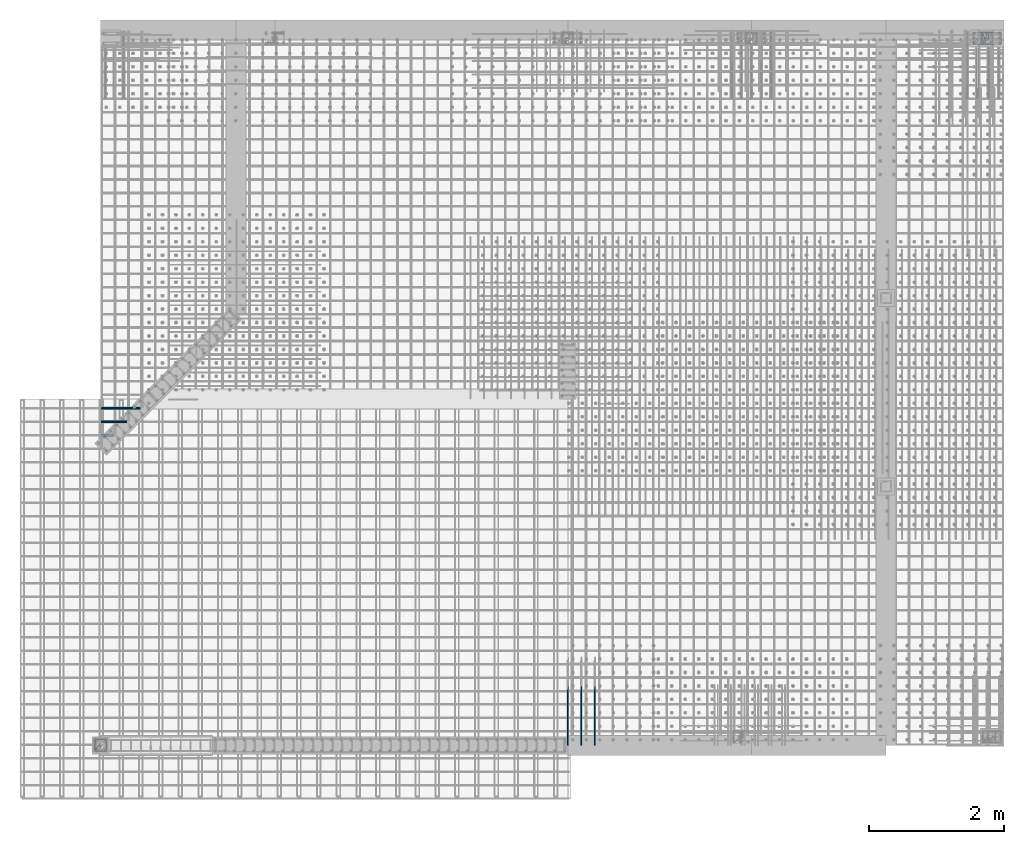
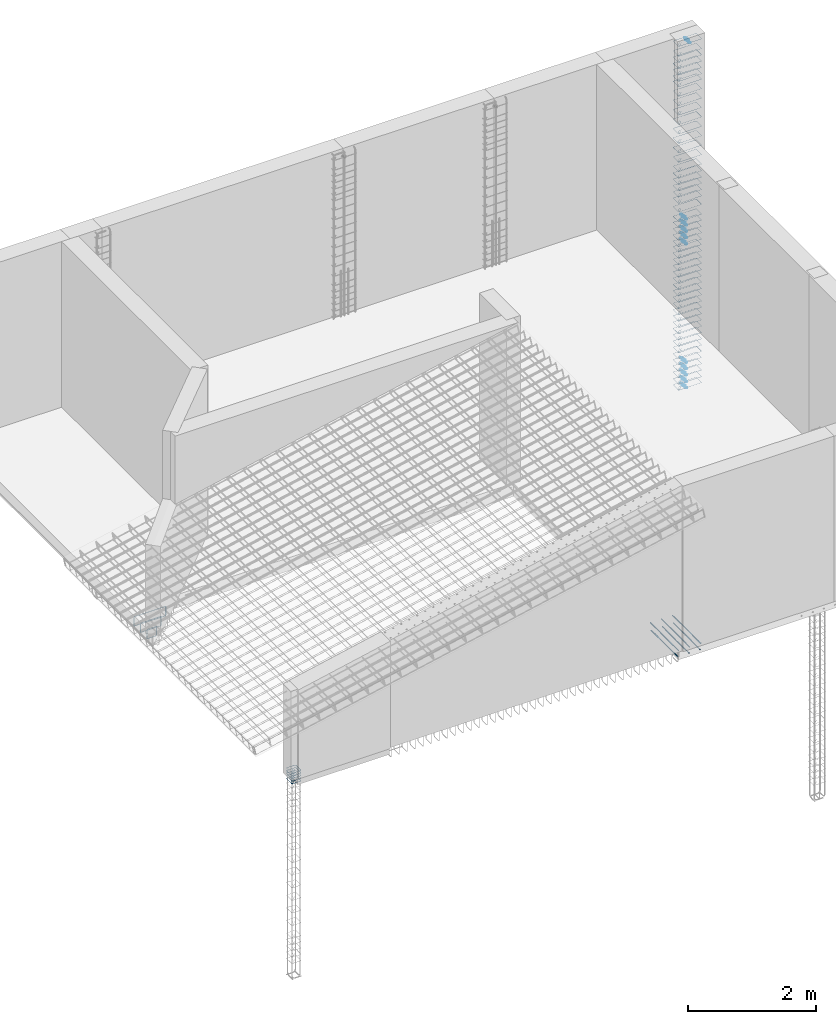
# One storey, part 15 of 17: 8 reinforcing bars.
"""IFC4 building model written with IfcOpenShell, lengths in metres."""

from ifc_helpers import new_model, entity, si_unit, frame, origin_with_axes, place, context, project, spatial, source, transform, mapped, element, save


model = new_model("IFC4")

# Units and contexts
model_context = context("Model", 3, precision=1e-05, world=origin_with_axes())
ifc_project = project(units=[si_unit("LENGTHUNIT", "METRE"), si_unit("AREAUNIT", "SQUARE_METRE"), si_unit("VOLUMEUNIT", "CUBIC_METRE"), si_unit("MASSUNIT", "GRAM", prefix="KILO"), si_unit("TIMEUNIT", "SECOND"), si_unit("PLANEANGLEUNIT", "RADIAN"), si_unit("SOLIDANGLEUNIT", "STERADIAN"), si_unit("THERMODYNAMICTEMPERATUREUNIT", "DEGREE_CELSIUS")], contexts=[model_context])

# Site, building, storey
placement_1 = place(None, origin_with_axes())
site = spatial("IfcSite", under=ifc_project, at=placement_1, Name="Italia", CompositionType="ELEMENT")
building = spatial("IfcBuilding", under=site, at=placement_1, Name="Abitazione", CompositionType="ELEMENT")
storey_placement = place(None, frame((0.0, 0.0, 3.569999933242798), z_axis=(0.0, 0.0, 1.0), x_axis=(1.0, 0.0, 0.0)))
storey = spatial("IfcBuildingStorey", under=building, at=storey_placement, Name="Storey 1", CompositionType="ELEMENT", Elevation=3.569999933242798)

# Reinforcing bars
shared_shape_1 = source(origin_with_axes(), model_context, "Body", "AdvancedSweptSolid", [
    entity("IfcSweptDiskSolid", entity("IfcIndexedPolyCurve", entity("IfcCartesianPointList3D", [[1.19671, 0.775711, 3.474], [1.12893, 0.707929, 3.47289], [1.12186, 0.705, 3.4728], [1.115, 0.705, 3.47272], [1.11117, 0.705761, 3.47268], [1.10793, 0.707929, 3.47263], [1.10576, 0.711173, 3.47259], [1.105, 0.715, 3.47254], [1.105, 0.865, 3.47081], [1.10576, 0.868827, 3.47076], [1.10793, 0.872071, 3.47072], [1.11117, 0.874239, 3.47067], [1.115, 0.875, 3.47063], [1.265, 0.875, 3.46889], [1.26883, 0.874239, 3.46885], [1.27207, 0.872071, 3.4688], [1.27424, 0.868827, 3.46876], [1.275, 0.865, 3.46871], [1.275, 0.715, 3.46698], [1.27424, 0.711173, 3.46693], [1.27207, 0.707929, 3.46689], [1.26883, 0.705761, 3.46684], [1.265, 0.705, 3.4668], [1.115, 0.705, 3.46506], [1.11117, 0.705761, 3.46502], [1.10793, 0.707929, 3.46497], [1.10576, 0.711173, 3.46493], [1.105, 0.715, 3.46488], [1.105, 0.721858, 3.4648], [1.10793, 0.728929, 3.46471], [1.17571, 0.796711, 3.46361]]), [entity("IfcLineIndex", [1, 2]), entity("IfcLineIndex", [2, 3]), entity("IfcLineIndex", [3, 4]), entity("IfcLineIndex", [4, 5]), entity("IfcLineIndex", [5, 6]), entity("IfcLineIndex", [6, 7]), entity("IfcLineIndex", [7, 8]), entity("IfcLineIndex", [8, 9]), entity("IfcLineIndex", [9, 10]), entity("IfcLineIndex", [10, 11]), entity("IfcLineIndex", [11, 12]), entity("IfcLineIndex", [12, 13]), entity("IfcLineIndex", [13, 14]), entity("IfcLineIndex", [14, 15]), entity("IfcLineIndex", [15, 16]), entity("IfcLineIndex", [16, 17]), entity("IfcLineIndex", [17, 18]), entity("IfcLineIndex", [18, 19]), entity("IfcLineIndex", [19, 20]), entity("IfcLineIndex", [20, 21]), entity("IfcLineIndex", [21, 22]), entity("IfcLineIndex", [22, 23]), entity("IfcLineIndex", [23, 24]), entity("IfcLineIndex", [24, 25]), entity("IfcLineIndex", [25, 26]), entity("IfcLineIndex", [26, 27]), entity("IfcLineIndex", [27, 28]), entity("IfcLineIndex", [28, 29]), entity("IfcLineIndex", [29, 30]), entity("IfcLineIndex", [30, 31])], False), 0.004),
])
placement_2 = place(placement_1, origin_with_axes())
reinforcing_bar_1_placement = place(placement_2, origin_with_axes())
element("IfcReinforcingBar", 1, at=reinforcing_bar_1_placement, inside=storey, BarLength=0.898837, CrossSectionArea=5.0265e-05, NominalDiameter=0.008, context=model_context, shape_type="MappedRepresentation", body=[
    mapped(shared_shape_1, transform((0.0, 0.0, 0.0), x_axis=(1.0, 0.0, 0.0), y_axis=(0.0, 1.0, 0.0), z_axis=(0.0, 0.0, 1.0), scale=1.0)),
    mapped(shared_shape_1, transform((0.0, 0.0, 0.0499997), x_axis=(1.0, 0.0, 0.0), y_axis=(0.0, 1.0, 0.0), z_axis=(0.0, 0.0, 1.0), scale=1.0)),
    mapped(shared_shape_1, transform((0.0, 0.0, 0.0999997), x_axis=(1.0, 0.0, 0.0), y_axis=(0.0, 1.0, 0.0), z_axis=(0.0, 0.0, 1.0), scale=1.0)),
    mapped(shared_shape_1, transform((0.0, 0.0, 0.15), x_axis=(1.0, 0.0, 0.0), y_axis=(0.0, 1.0, 0.0), z_axis=(0.0, 0.0, 1.0), scale=1.0)),
    mapped(shared_shape_1, transform((0.0, 0.0, 0.2), x_axis=(1.0, 0.0, 0.0), y_axis=(0.0, 1.0, 0.0), z_axis=(0.0, 0.0, 1.0), scale=1.0)),
])
shared_shape_2 = source(origin_with_axes(), model_context, "Body", "AdvancedSweptSolid", [
    entity("IfcSweptDiskSolid", entity("IfcIndexedPolyCurve", entity("IfcCartesianPointList3D", [[14.2412, 11.2817, 0.047], [14.1734, 11.2139, 0.0465129], [14.1664, 11.211, 0.046474], [14.161, 11.211, 0.0464468], [14.1572, 11.2118, 0.0464269], [14.1539, 11.2139, 0.0464071], [14.1518, 11.2172, 0.0463873], [14.151, 11.221, 0.0463675], [14.151, 11.369, 0.0456154], [14.1518, 11.3728, 0.0455956], [14.1539, 11.3761, 0.0455757], [14.1572, 11.3782, 0.0455559], [14.161, 11.379, 0.0455361], [14.559, 11.379, 0.0435137], [14.5628, 11.3782, 0.0434938], [14.5661, 11.3761, 0.043474], [14.5682, 11.3728, 0.0434542], [14.569, 11.369, 0.0434343], [14.569, 11.221, 0.0426823], [14.5682, 11.2172, 0.0426625], [14.5661, 11.2139, 0.0426426], [14.5628, 11.2118, 0.0426228], [14.559, 11.211, 0.042603], [14.161, 11.211, 0.0405805], [14.1572, 11.2118, 0.0405607], [14.1539, 11.2139, 0.0405409], [14.1518, 11.2172, 0.0405211], [14.151, 11.221, 0.0405012], [14.151, 11.2264, 0.040474], [14.1539, 11.2334, 0.0404351], [14.2217, 11.3012, 0.039948]]), [entity("IfcLineIndex", [1, 2]), entity("IfcLineIndex", [2, 3]), entity("IfcLineIndex", [3, 4]), entity("IfcLineIndex", [4, 5]), entity("IfcLineIndex", [5, 6]), entity("IfcLineIndex", [6, 7]), entity("IfcLineIndex", [7, 8]), entity("IfcLineIndex", [8, 9]), entity("IfcLineIndex", [9, 10]), entity("IfcLineIndex", [10, 11]), entity("IfcLineIndex", [11, 12]), entity("IfcLineIndex", [12, 13]), entity("IfcLineIndex", [13, 14]), entity("IfcLineIndex", [14, 15]), entity("IfcLineIndex", [15, 16]), entity("IfcLineIndex", [16, 17]), entity("IfcLineIndex", [17, 18]), entity("IfcLineIndex", [18, 19]), entity("IfcLineIndex", [19, 20]), entity("IfcLineIndex", [20, 21]), entity("IfcLineIndex", [21, 22]), entity("IfcLineIndex", [22, 23]), entity("IfcLineIndex", [23, 24]), entity("IfcLineIndex", [24, 25]), entity("IfcLineIndex", [25, 26]), entity("IfcLineIndex", [26, 27]), entity("IfcLineIndex", [27, 28]), entity("IfcLineIndex", [28, 29]), entity("IfcLineIndex", [29, 30]), entity("IfcLineIndex", [30, 31])], False), 0.003),
])
reinforcing_bar_2_placement = place(placement_2, origin_with_axes())
element("IfcReinforcingBar", 2, at=reinforcing_bar_2_placement, inside=storey, BarLength=1.38779, CrossSectionArea=2.8274e-05, NominalDiameter=0.006, context=model_context, shape_type="MappedRepresentation", body=[
    mapped(shared_shape_2, transform((0.0, 0.0, 3.10002), x_axis=(1.0, 0.0, 0.0), y_axis=(0.0, 1.0, 0.0), z_axis=(0.0, 0.0, 1.0), scale=1.0)),
    mapped(shared_shape_2, transform((0.0, 0.0, 2.98002), x_axis=(1.0, 0.0, 0.0), y_axis=(0.0, 1.0, 0.0), z_axis=(0.0, 0.0, 1.0), scale=1.0)),
    mapped(shared_shape_2, transform((0.0, 0.0, 4.04389), x_axis=(1.0, 0.0, 5.30579e-05), y_axis=(0.0, 1.0, -5.68494e-05), z_axis=(-5.30578e-05, 5.68494e-05, 1.0), scale=1.0)),
    mapped(shared_shape_2, transform((0.0, 0.0, 4.35089), x_axis=(1.0, 0.0, 5.30579e-05), y_axis=(0.0, 1.0, -5.68494e-05), z_axis=(-5.30578e-05, 5.68494e-05, 1.0), scale=1.0)),
    mapped(shared_shape_2, transform((0.0, 0.0, 4.17089), x_axis=(1.0, 0.0, 5.30579e-05), y_axis=(0.0, 1.0, -5.68494e-05), z_axis=(-5.30578e-05, 5.68494e-05, 1.0), scale=1.0)),
    mapped(shared_shape_2, transform((0.0, 0.0, 4.53089), x_axis=(1.0, 0.0, 5.30579e-05), y_axis=(0.0, 1.0, -5.68494e-05), z_axis=(-5.30578e-05, 5.68494e-05, 1.0), scale=1.0)),
    mapped(shared_shape_2, transform((0.0, 0.0, 3.92402), x_axis=(1.0, 0.0, 0.0), y_axis=(0.0, 1.0, 0.0), z_axis=(0.0, 0.0, 1.0), scale=1.0)),
    mapped(shared_shape_2, transform((0.0, 0.0, 3.80402), x_axis=(1.0, 0.0, 0.0), y_axis=(0.0, 1.0, 0.0), z_axis=(0.0, 0.0, 1.0), scale=1.0)),
    mapped(shared_shape_2, transform((0.0, 0.0, 3.21402), x_axis=(1.0, 0.0, 0.0), y_axis=(0.0, 1.0, 0.0), z_axis=(0.0, 0.0, 1.0), scale=1.0)),
    mapped(shared_shape_2, transform((0.0, 0.0, 3.56402), x_axis=(1.0, 0.0, 0.0), y_axis=(0.0, 1.0, 0.0), z_axis=(0.0, 0.0, 1.0), scale=1.0)),
    mapped(shared_shape_2, transform((0.0, 0.0, 3.40102), x_axis=(1.0, 0.0, 0.0), y_axis=(0.0, 1.0, 0.0), z_axis=(0.0, 0.0, 1.0), scale=1.0)),
    mapped(shared_shape_2, transform((0.0, 0.0, 3.68402), x_axis=(1.0, 0.0, 0.0), y_axis=(0.0, 1.0, 0.0), z_axis=(0.0, 0.0, 1.0), scale=1.0)),
    mapped(shared_shape_2, transform((0.0, 0.0, 4.89088), x_axis=(1.0, 0.0, 5.30579e-05), y_axis=(0.0, 1.0, -5.68494e-05), z_axis=(-5.30578e-05, 5.68494e-05, 1.0), scale=1.0)),
    mapped(shared_shape_2, transform((0.0, 0.0, 4.71089), x_axis=(1.0, 0.0, 5.30579e-05), y_axis=(0.0, 1.0, -5.68494e-05), z_axis=(-5.30578e-05, 5.68494e-05, 1.0), scale=1.0)),
    mapped(shared_shape_2, transform((0.0, 0.0, 6.01389), x_axis=(1.0, 0.0, 5.30579e-05), y_axis=(0.0, 1.0, -5.68494e-05), z_axis=(-5.30578e-05, 5.68494e-05, 1.0), scale=1.0)),
    mapped(shared_shape_2, transform((0.0, 0.0, 6.25389), x_axis=(1.0, 0.0, 5.30579e-05), y_axis=(0.0, 1.0, -5.68494e-05), z_axis=(-5.30578e-05, 5.68494e-05, 1.0), scale=1.0)),
    mapped(shared_shape_2, transform((0.0, 0.0, 6.13389), x_axis=(1.0, 0.0, 5.30579e-05), y_axis=(0.0, 1.0, -5.68494e-05), z_axis=(-5.30578e-05, 5.68494e-05, 1.0), scale=1.0)),
    mapped(shared_shape_2, transform((0.0, 0.0, 6.37389), x_axis=(1.0, 0.0, 5.30579e-05), y_axis=(0.0, 1.0, -5.68494e-05), z_axis=(-5.30578e-05, 5.68494e-05, 1.0), scale=1.0)),
    mapped(shared_shape_2, transform((0.0, 0.0, 5.89389), x_axis=(1.0, 0.0, 5.30579e-05), y_axis=(0.0, 1.0, -5.68494e-05), z_axis=(-5.30578e-05, 5.68494e-05, 1.0), scale=1.0)),
    mapped(shared_shape_2, transform((0.0, 0.0, 5.79088), x_axis=(1.0, 0.0, 5.30579e-05), y_axis=(0.0, 1.0, -5.68494e-05), z_axis=(-5.30578e-05, 5.68494e-05, 1.0), scale=1.0)),
    mapped(shared_shape_2, transform((0.0, 0.0, 5.07089), x_axis=(1.0, 0.0, 5.30579e-05), y_axis=(0.0, 1.0, -5.68494e-05), z_axis=(-5.30578e-05, 5.68494e-05, 1.0), scale=1.0)),
    mapped(shared_shape_2, transform((0.0, 0.0, 5.43088), x_axis=(1.0, 0.0, 5.30579e-05), y_axis=(0.0, 1.0, -5.68494e-05), z_axis=(-5.30578e-05, 5.68494e-05, 1.0), scale=1.0)),
    mapped(shared_shape_2, transform((0.0, 0.0, 5.25089), x_axis=(1.0, 0.0, 5.30579e-05), y_axis=(0.0, 1.0, -5.68494e-05), z_axis=(-5.30578e-05, 5.68494e-05, 1.0), scale=1.0)),
    mapped(shared_shape_2, transform((0.0, 0.0, 5.61088), x_axis=(1.0, 0.0, 5.30579e-05), y_axis=(0.0, 1.0, -5.68494e-05), z_axis=(-5.30578e-05, 5.68494e-05, 1.0), scale=1.0)),
    mapped(shared_shape_2, transform((0.0, 0.0, 0.0), x_axis=(1.0, 0.0, 0.0), y_axis=(0.0, 1.0, 0.0), z_axis=(0.0, 0.0, 1.0), scale=1.0)),
    mapped(shared_shape_2, transform((0.0, 0.0, 6.56089), x_axis=(1.0, 0.0, 5.30579e-05), y_axis=(0.0, 1.0, -5.68494e-05), z_axis=(-5.30578e-05, 5.68494e-05, 1.0), scale=1.0)),
    mapped(shared_shape_2, transform((0.0, 0.0, 0.836016), x_axis=(1.0, 0.0, 0.0), y_axis=(0.0, 1.0, 0.0), z_axis=(0.0, 0.0, 1.0), scale=1.0)),
    mapped(shared_shape_2, transform((0.0, 0.0, 1.07594), x_axis=(1.0, 0.0, 2.17937e-05), y_axis=(0.0, 1.0, -2.20677e-05), z_axis=(-2.17937e-05, 2.20677e-05, 1.0), scale=1.0)),
    mapped(shared_shape_2, transform((0.0, 0.0, 0.955939), x_axis=(1.0, 0.0, 2.17937e-05), y_axis=(0.0, 1.0, -2.20677e-05), z_axis=(-2.17937e-05, 2.20677e-05, 1.0), scale=1.0)),
    mapped(shared_shape_2, transform((0.0, 0.0, 1.19594), x_axis=(1.0, 0.0, 2.17937e-05), y_axis=(0.0, 1.0, -2.20677e-05), z_axis=(-2.17937e-05, 2.20677e-05, 1.0), scale=1.0)),
    mapped(shared_shape_2, transform((0.0, 0.0, 0.716016), x_axis=(1.0, 0.0, 0.0), y_axis=(0.0, 1.0, 0.0), z_axis=(0.0, 0.0, 1.0), scale=1.0)),
    mapped(shared_shape_2, transform((0.0, 0.0, 0.596016), x_axis=(1.0, 0.0, 0.0), y_axis=(0.0, 1.0, 0.0), z_axis=(0.0, 0.0, 1.0), scale=1.0)),
    mapped(shared_shape_2, transform((0.0, 0.0, 0.113998), x_axis=(1.0, 0.0, 0.0), y_axis=(0.0, 1.0, 0.0), z_axis=(0.0, 0.0, 1.0), scale=1.0)),
    mapped(shared_shape_2, transform((0.0, 0.0, 0.359998), x_axis=(1.0, 0.0, 0.0), y_axis=(0.0, 1.0, 0.0), z_axis=(0.0, 0.0, 1.0), scale=1.0)),
    mapped(shared_shape_2, transform((0.0, 0.0, 0.239998), x_axis=(1.0, 0.0, 0.0), y_axis=(0.0, 1.0, 0.0), z_axis=(0.0, 0.0, 1.0), scale=1.0)),
    mapped(shared_shape_2, transform((0.0, 0.0, 0.479981), x_axis=(1.0, 0.0, 0.0), y_axis=(0.0, 1.0, 0.0), z_axis=(0.0, 0.0, 1.0), scale=1.0)),
    mapped(shared_shape_2, transform((0.0, 0.0, 1.43594), x_axis=(1.0, 0.0, 2.17937e-05), y_axis=(0.0, 1.0, -2.20677e-05), z_axis=(-2.17937e-05, 2.20677e-05, 1.0), scale=1.0)),
    mapped(shared_shape_2, transform((0.0, 0.0, 1.31594), x_axis=(1.0, 0.0, 2.17937e-05), y_axis=(0.0, 1.0, -2.20677e-05), z_axis=(-2.17937e-05, 2.20677e-05, 1.0), scale=1.0)),
    mapped(shared_shape_2, transform((0.0, 0.0, 2.27602), x_axis=(1.0, 0.0, 0.0), y_axis=(0.0, 1.0, 0.0), z_axis=(0.0, 0.0, 1.0), scale=1.0)),
    mapped(shared_shape_2, transform((0.0, 0.0, 2.51602), x_axis=(1.0, 0.0, 0.0), y_axis=(0.0, 1.0, 0.0), z_axis=(0.0, 0.0, 1.0), scale=1.0)),
    mapped(shared_shape_2, transform((0.0, 0.0, 2.39602), x_axis=(1.0, 0.0, 0.0), y_axis=(0.0, 1.0, 0.0), z_axis=(0.0, 0.0, 1.0), scale=1.0)),
    mapped(shared_shape_2, transform((0.0, 0.0, 2.63602), x_axis=(1.0, 0.0, 0.0), y_axis=(0.0, 1.0, 0.0), z_axis=(0.0, 0.0, 1.0), scale=1.0)),
    mapped(shared_shape_2, transform((0.0, 0.0, 2.15602), x_axis=(1.0, 0.0, 0.0), y_axis=(0.0, 1.0, 0.0), z_axis=(0.0, 0.0, 1.0), scale=1.0)),
    mapped(shared_shape_2, transform((0.0, 0.0, 2.03602), x_axis=(1.0, 0.0, 0.0), y_axis=(0.0, 1.0, 0.0), z_axis=(0.0, 0.0, 1.0), scale=1.0)),
    mapped(shared_shape_2, transform((0.0, 0.0, 1.55594), x_axis=(1.0, 0.0, 2.17937e-05), y_axis=(0.0, 1.0, -2.20677e-05), z_axis=(-2.17937e-05, 2.20677e-05, 1.0), scale=1.0)),
    mapped(shared_shape_2, transform((0.0, 0.0, 1.79594), x_axis=(1.0, 0.0, 2.17937e-05), y_axis=(0.0, 1.0, -2.20677e-05), z_axis=(-2.17937e-05, 2.20677e-05, 1.0), scale=1.0)),
    mapped(shared_shape_2, transform((0.0, 0.0, 1.67594), x_axis=(1.0, 0.0, 2.17937e-05), y_axis=(0.0, 1.0, -2.20677e-05), z_axis=(-2.17937e-05, 2.20677e-05, 1.0), scale=1.0)),
    mapped(shared_shape_2, transform((0.0, 0.0, 1.91594), x_axis=(1.0, 0.0, 2.17937e-05), y_axis=(0.0, 1.0, -2.20677e-05), z_axis=(-2.17937e-05, 2.20677e-05, 1.0), scale=1.0)),
    mapped(shared_shape_2, transform((0.0, 0.0, 2.86002), x_axis=(1.0, 0.0, 0.0), y_axis=(0.0, 1.0, 0.0), z_axis=(0.0, 0.0, 1.0), scale=1.0)),
    mapped(shared_shape_2, transform((0.0, 0.0, 2.74002), x_axis=(1.0, 0.0, 0.0), y_axis=(0.0, 1.0, 0.0), z_axis=(0.0, 0.0, 1.0), scale=1.0)),
])
shared_shape_3 = source(origin_with_axes(), model_context, "Body", "AdvancedSweptSolid", [
    entity("IfcSweptDiskSolid", entity("IfcIndexedPolyCurve", entity("IfcCartesianPointList3D", [[14.3236, 11.2844, 0.032], [14.306, 11.3727, 0.032], [14.3045, 11.3763, 0.032], [14.3017, 11.379, 0.032], [14.2981, 11.3805, 0.032], [14.2942, 11.3805, 0.032], [14.2883, 11.3793, 0.032], [14.2847, 11.3778, 0.032], [14.282, 11.3751, 0.032], [14.2805, 11.3715, 0.032], [14.2805, 11.3676, 0.032], [14.3095, 11.2224, 0.032], [14.3095, 11.2185, 0.032], [14.308, 11.2149, 0.032], [14.3053, 11.2122, 0.032], [14.3017, 11.2107, 0.032], [14.2958, 11.2095, 0.032], [14.2919, 11.2095, 0.032], [14.2883, 11.211, 0.032], [14.2855, 11.2137, 0.032], [14.284, 11.2173, 0.032], [14.2664, 11.3056, 0.032]]), [entity("IfcLineIndex", [1, 2]), entity("IfcLineIndex", [2, 3]), entity("IfcLineIndex", [3, 4]), entity("IfcLineIndex", [4, 5]), entity("IfcLineIndex", [5, 6]), entity("IfcLineIndex", [6, 7]), entity("IfcLineIndex", [7, 8]), entity("IfcLineIndex", [8, 9]), entity("IfcLineIndex", [9, 10]), entity("IfcLineIndex", [10, 11]), entity("IfcLineIndex", [11, 12]), entity("IfcLineIndex", [12, 13]), entity("IfcLineIndex", [13, 14]), entity("IfcLineIndex", [14, 15]), entity("IfcLineIndex", [15, 16]), entity("IfcLineIndex", [16, 17]), entity("IfcLineIndex", [17, 18]), entity("IfcLineIndex", [18, 19]), entity("IfcLineIndex", [19, 20]), entity("IfcLineIndex", [20, 21]), entity("IfcLineIndex", [21, 22])], False), 0.003),
])
reinforcing_bar_3_placement = place(placement_2, origin_with_axes())
element("IfcReinforcingBar", 3, at=reinforcing_bar_3_placement, inside=storey, BarLength=0.40243, CrossSectionArea=2.8274e-05, NominalDiameter=0.006, context=model_context, shape_type="MappedRepresentation", body=[
    mapped(shared_shape_3, transform((-0.459164, 0.697059, 6.567), x_axis=(0.998854, -0.047857, 0.0), y_axis=(0.047857, 0.998854, 0.0), z_axis=(0.0, 0.0, 1.0), scale=1.0)),
    mapped(shared_shape_3, transform((0.0, 0.0, 2.866), x_axis=(1.0, 0.0, 0.0), y_axis=(0.0, 1.0, 0.0), z_axis=(0.0, 0.0, 1.0), scale=1.0)),
    mapped(shared_shape_3, transform((0.0, 0.0, 2.986), x_axis=(1.0, 0.0, 0.0), y_axis=(0.0, 1.0, 0.0), z_axis=(0.0, 0.0, 1.0), scale=1.0)),
    mapped(shared_shape_3, transform((0.0, 0.0, 3.106), x_axis=(1.0, 0.0, 0.0), y_axis=(0.0, 1.0, 0.0), z_axis=(0.0, 0.0, 1.0), scale=1.0)),
    mapped(shared_shape_3, transform((0.0, 0.0, 3.22), x_axis=(1.0, 0.0, 0.0), y_axis=(0.0, 1.0, 0.0), z_axis=(0.0, 0.0, 1.0), scale=1.0)),
    mapped(shared_shape_3, transform((0.0, 0.0, 2.746), x_axis=(1.0, 0.0, 0.0), y_axis=(0.0, 1.0, 0.0), z_axis=(0.0, 0.0, 1.0), scale=1.0)),
    mapped(shared_shape_3, transform((0.0, 0.0, 0.12), x_axis=(1.0, 0.0, 0.0), y_axis=(0.0, 1.0, 0.0), z_axis=(0.0, 0.0, 1.0), scale=1.0)),
    mapped(shared_shape_3, transform((0.0, 0.0, 0.246), x_axis=(1.0, 0.0, 0.0), y_axis=(0.0, 1.0, 0.0), z_axis=(0.0, 0.0, 1.0), scale=1.0)),
    mapped(shared_shape_3, transform((0.0, 0.0, 0.366), x_axis=(1.0, 0.0, 0.0), y_axis=(0.0, 1.0, 0.0), z_axis=(0.0, 0.0, 1.0), scale=1.0)),
    mapped(shared_shape_3, transform((0.0, 0.0, 0.486), x_axis=(1.0, 0.0, 0.0), y_axis=(0.0, 1.0, 0.0), z_axis=(0.0, 0.0, 1.0), scale=1.0)),
    mapped(shared_shape_3, transform((0.0, 0.0, 0.0), x_axis=(1.0, 0.0, 0.0), y_axis=(0.0, 1.0, 0.0), z_axis=(0.0, 0.0, 1.0), scale=1.0)),
])
shared_shape_4 = source(origin_with_axes(), model_context, "Body", "AdvancedSweptSolid", [
    entity("IfcSweptDiskSolid", entity("IfcIndexedPolyCurve", entity("IfcCartesianPointList3D", [[1.202, 5.394, 3.374], [1.202, 5.394, 3.53], [1.20276, 5.394, 3.53383], [1.20493, 5.394, 3.53707], [1.20817, 5.394, 3.53924], [1.212, 5.394, 3.54], [1.36496, 5.394, 3.54], [1.36879, 5.394, 3.53924], [1.37203, 5.394, 3.53707], [1.3742, 5.394, 3.53383], [1.37496, 5.394, 3.53], [1.37496, 5.394, 3.374]]), [entity("IfcLineIndex", [1, 2]), entity("IfcLineIndex", [2, 3]), entity("IfcLineIndex", [3, 4]), entity("IfcLineIndex", [4, 5]), entity("IfcLineIndex", [5, 6]), entity("IfcLineIndex", [6, 7]), entity("IfcLineIndex", [7, 8]), entity("IfcLineIndex", [8, 9]), entity("IfcLineIndex", [9, 10]), entity("IfcLineIndex", [10, 11]), entity("IfcLineIndex", [11, 12])], False), 0.006),
])
reinforcing_bar_4_placement = place(placement_2, origin_with_axes())
element("IfcReinforcingBar", 4, at=reinforcing_bar_4_placement, inside=storey, BarLength=0.496173, CrossSectionArea=0.0001131, NominalDiameter=0.012, context=model_context, shape_type="MappedRepresentation", body=[
    mapped(shared_shape_4, transform((0.0, 10.8, 6.89), x_axis=(1.0, 0.0, 0.0), y_axis=(0.0, -1.0, 0.0), z_axis=(0.0, 0.0, -1.0), scale=1.0)),
    mapped(shared_shape_4, transform((0.0, 0.0, 0.0), x_axis=(1.0, 0.0, 0.0), y_axis=(0.0, 1.0, 0.0), z_axis=(0.0, 0.0, 1.0), scale=1.0)),
])
shared_shape_5 = source(origin_with_axes(), model_context, "Body", "AdvancedSweptSolid", [
    entity("IfcSweptDiskSolid", entity("IfcIndexedPolyCurve", entity("IfcCartesianPointList3D", [[1.202, 5.594, 3.374], [1.202, 5.594, 3.53], [1.20276, 5.594, 3.53383], [1.20493, 5.594, 3.53707], [1.20817, 5.594, 3.53924], [1.212, 5.594, 3.54], [1.56397, 5.594, 3.54], [1.5678, 5.594, 3.53924], [1.57104, 5.594, 3.53707], [1.57321, 5.594, 3.53383], [1.57397, 5.594, 3.53], [1.57397, 5.594, 3.374]]), [entity("IfcLineIndex", [1, 2]), entity("IfcLineIndex", [2, 3]), entity("IfcLineIndex", [3, 4]), entity("IfcLineIndex", [4, 5]), entity("IfcLineIndex", [5, 6]), entity("IfcLineIndex", [6, 7]), entity("IfcLineIndex", [7, 8]), entity("IfcLineIndex", [8, 9]), entity("IfcLineIndex", [9, 10]), entity("IfcLineIndex", [10, 11]), entity("IfcLineIndex", [11, 12])], False), 0.006),
])
reinforcing_bar_5_placement = place(placement_2, origin_with_axes())
element("IfcReinforcingBar", 5, at=reinforcing_bar_5_placement, inside=storey, BarLength=0.695183, CrossSectionArea=0.0001131, NominalDiameter=0.012, context=model_context, shape_type="MappedRepresentation", body=[
    mapped(shared_shape_5, transform((0.0, 11.2, 6.89), x_axis=(1.0, 0.0, 0.0), y_axis=(0.0, -1.0, 0.0), z_axis=(0.0, 0.0, -1.0), scale=1.0)),
    mapped(shared_shape_5, transform((0.0, 0.0, 0.0), x_axis=(1.0, 0.0, 0.0), y_axis=(0.0, 1.0, 0.0), z_axis=(0.0, 0.0, 1.0), scale=1.0)),
])
shared_shape_6 = source(origin_with_axes(), model_context, "Body", "AdvancedSweptSolid", [
    entity("IfcSweptDiskSolid", entity("IfcIndexedPolyCurve", entity("IfcCartesianPointList3D", [[1.202, 5.794, 3.374], [1.202, 5.794, 3.53], [1.20276, 5.794, 3.53383], [1.20493, 5.794, 3.53707], [1.20817, 5.794, 3.53924], [1.212, 5.794, 3.54], [1.76298, 5.794, 3.54], [1.7668, 5.794, 3.53924], [1.77005, 5.794, 3.53707], [1.77222, 5.794, 3.53383], [1.77298, 5.794, 3.53], [1.77298, 5.794, 3.374]]), [entity("IfcLineIndex", [1, 2]), entity("IfcLineIndex", [2, 3]), entity("IfcLineIndex", [3, 4]), entity("IfcLineIndex", [4, 5]), entity("IfcLineIndex", [5, 6]), entity("IfcLineIndex", [6, 7]), entity("IfcLineIndex", [7, 8]), entity("IfcLineIndex", [8, 9]), entity("IfcLineIndex", [9, 10]), entity("IfcLineIndex", [10, 11]), entity("IfcLineIndex", [11, 12])], False), 0.006),
])
reinforcing_bar_6_placement = place(placement_2, origin_with_axes())
element("IfcReinforcingBar", 6, at=reinforcing_bar_6_placement, inside=storey, BarLength=0.894192, CrossSectionArea=0.0001131, NominalDiameter=0.012, context=model_context, shape_type="MappedRepresentation", body=[
    mapped(shared_shape_6, transform((0.0, 11.6, 6.89), x_axis=(1.0, 0.0, 0.0), y_axis=(0.0, -1.0, 0.0), z_axis=(0.0, 0.0, -1.0), scale=1.0)),
    mapped(shared_shape_6, transform((0.0, 0.0, 0.0), x_axis=(1.0, 0.0, 0.0), y_axis=(0.0, 1.0, 0.0), z_axis=(0.0, 0.0, 1.0), scale=1.0)),
])
shared_shape_7 = source(origin_with_axes(), model_context, "Body", "AdvancedSweptSolid", [
    entity("IfcSweptDiskSolid", entity("IfcIndexedPolyCurve", entity("IfcCartesianPointList3D", [[8.136, 0.79, 3.5], [8.136, 1.66643, 3.5]]), [entity("IfcLineIndex", [1, 2])], False), 0.006),
])
reinforcing_bar_7_placement = place(placement_2, origin_with_axes())
element("IfcReinforcingBar", 7, at=reinforcing_bar_7_placement, inside=storey, BarLength=0.876429, CrossSectionArea=0.0001131, NominalDiameter=0.012, context=model_context, shape_type="MappedRepresentation", body=[
    mapped(shared_shape_7, transform((0.4, 0.0, 0.0), x_axis=(1.0, 0.0, 0.0), y_axis=(0.0, 1.0, 0.0), z_axis=(0.0, 0.0, 1.0), scale=1.0)),
    mapped(shared_shape_7, transform((0.2, 0.0, 0.0), x_axis=(1.0, 0.0, 0.0), y_axis=(0.0, 1.0, 0.0), z_axis=(0.0, 0.0, 1.0), scale=1.0)),
    mapped(shared_shape_7, transform((0.0, 0.0, 0.0), x_axis=(1.0, 0.0, 0.0), y_axis=(0.0, 1.0, 0.0), z_axis=(0.0, 0.0, 1.0), scale=1.0)),
])
shared_shape_8 = source(origin_with_axes(), model_context, "Body", "AdvancedSweptSolid", [
    entity("IfcSweptDiskSolid", entity("IfcIndexedPolyCurve", entity("IfcCartesianPointList3D", [[8.124, 0.79, 3.386], [8.124, 1.62061, 3.386]]), [entity("IfcLineIndex", [1, 2])], False), 0.006),
])
reinforcing_bar_8_placement = place(placement_2, origin_with_axes())
element("IfcReinforcingBar", 8, at=reinforcing_bar_8_placement, inside=storey, BarLength=0.830613, CrossSectionArea=0.0001131, NominalDiameter=0.012, context=model_context, shape_type="MappedRepresentation", body=[
    mapped(shared_shape_8, transform((0.4, 0.0, 0.0), x_axis=(1.0, 0.0, 0.0), y_axis=(0.0, 1.0, 0.0), z_axis=(0.0, 0.0, 1.0), scale=1.0)),
    mapped(shared_shape_8, transform((0.2, 0.0, 0.0), x_axis=(1.0, 0.0, 0.0), y_axis=(0.0, 1.0, 0.0), z_axis=(0.0, 0.0, 1.0), scale=1.0)),
    mapped(shared_shape_8, transform((0.0, 0.0, 0.0), x_axis=(1.0, 0.0, 0.0), y_axis=(0.0, 1.0, 0.0), z_axis=(0.0, 0.0, 1.0), scale=1.0)),
])

save(model, "model.ifc")
